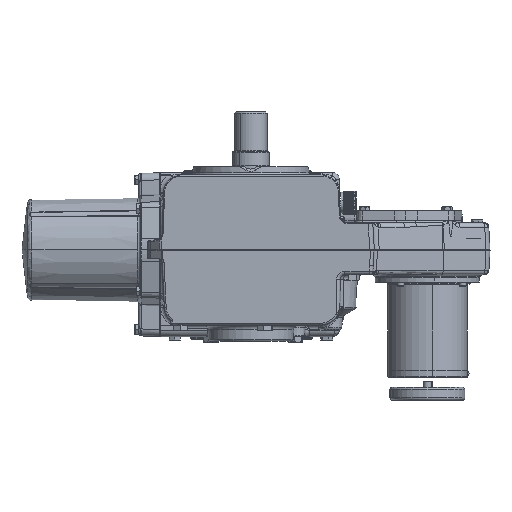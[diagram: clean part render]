
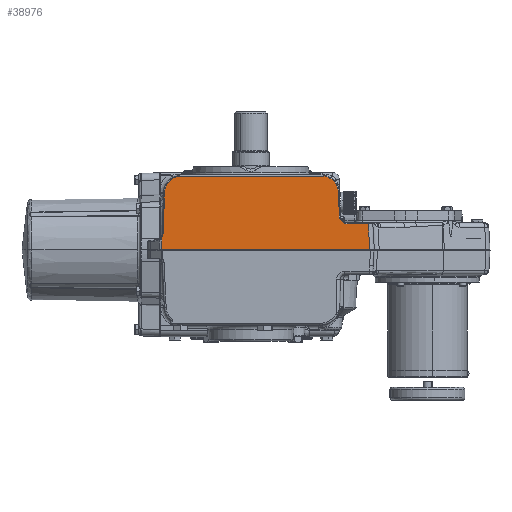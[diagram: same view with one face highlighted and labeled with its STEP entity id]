
A CAD part, front view. The second image highlights one B-rep face of the part: STEP entity #38976.
In plain terms, the highlighted planar face has unit normal (0, -1, 0).
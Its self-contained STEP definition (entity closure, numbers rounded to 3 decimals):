
#344 = AXIS2_PLACEMENT_3D ( 'NONE', #31014, #31015, #31017 ) ;
#379 = CIRCLE ( 'NONE', #344, 0.425 ) ;
#995 = AXIS2_PLACEMENT_3D ( 'NONE', #36457, #36459, #36461 ) ;
#1043 = CIRCLE ( 'NONE', #995, 0.95 ) ;
#1780 = VERTEX_POINT ( 'NONE', #62908 ) ;
#1784 = VERTEX_POINT ( 'NONE', #62969 ) ;
#3136 = VERTEX_POINT ( 'NONE', #68237 ) ;
#4160 = VERTEX_POINT ( 'NONE', #62239 ) ;
#4164 = VERTEX_POINT ( 'NONE', #62325 ) ;
#4328 = VERTEX_POINT ( 'NONE', #62761 ) ;
#4332 = VERTEX_POINT ( 'NONE', #62775 ) ;
#4354 = VERTEX_POINT ( 'NONE', #62823 ) ;
#4357 = VERTEX_POINT ( 'NONE', #62854 ) ;
#4416 = VERTEX_POINT ( 'NONE', #62990 ) ;
#4430 = VERTEX_POINT ( 'NONE', #63014 ) ;
#5248 = VERTEX_POINT ( 'NONE', #37351 ) ;
#5262 = VERTEX_POINT ( 'NONE', #37366 ) ;
#9337 = LINE ( 'NONE', #9338, #31910 ) ;
#9338 = CARTESIAN_POINT ( 'NONE',  ( -4.625, -5.329, 0.125 ) ) ;
#9346 = DIRECTION ( 'NONE',  ( 1., 0., 0. ) ) ;
#9389 = CARTESIAN_POINT ( 'NONE',  ( -3.66, -5.329, 3.125 ) ) ;
#9390 = DIRECTION ( 'NONE',  ( 0., -1., 0. ) ) ;
#9391 = DIRECTION ( 'NONE',  ( 0., 0., -1. ) ) ;
#9522 = CARTESIAN_POINT ( 'NONE',  ( 3.889, -5.329, 4.053 ) ) ;
#9523 = CARTESIAN_POINT ( 'NONE',  ( 3.912, -5.329, 4.061 ) ) ;
#9528 = CARTESIAN_POINT ( 'NONE',  ( 3.866, -5.329, 4.046 ) ) ;
#9529 = CARTESIAN_POINT ( 'NONE',  ( 3.831, -5.329, 4.038 ) ) ;
#9530 = CARTESIAN_POINT ( 'NONE',  ( 3.819, -5.329, 4.036 ) ) ;
#9531 = CARTESIAN_POINT ( 'NONE',  ( 3.795, -5.329, 4.032 ) ) ;
#9532 = CARTESIAN_POINT ( 'NONE',  ( 3.782, -5.329, 4.031 ) ) ;
#9533 = CARTESIAN_POINT ( 'NONE',  ( 3.77, -5.329, 4.031 ) ) ;
#18888 = EDGE_CURVE ( 'NONE', #4160, #1784, #46608, .T. ) ;
#18974 = EDGE_CURVE ( 'NONE', #1780, #5262, #22561, .T. ) ;
#19023 = EDGE_CURVE ( 'NONE', #3136, #4430, #9337, .T. ) ;
#19032 = EDGE_CURVE ( 'NONE', #1784, #1780, #31899, .T. ) ;
#19070 = EDGE_CURVE ( 'NONE', #4332, #4164, #46585, .T. ) ;
#22561 = LINE ( 'NONE', #22562, #31859 ) ;
#22562 = CARTESIAN_POINT ( 'NONE',  ( -4.686, -5.329, 0.985 ) ) ;
#22563 = DIRECTION ( 'NONE',  ( -0.035, 0., -0.999 ) ) ;
#23471 = CARTESIAN_POINT ( 'NONE',  ( -3.659, -5.329, 4.031 ) ) ;
#23488 = LINE ( 'NONE', #23471, #66933 ) ;
#23492 = DIRECTION ( 'NONE',  ( 1., 0., 0. ) ) ;
#27739 = CARTESIAN_POINT ( 'NONE',  ( -3.789, -5.329, 4.031 ) ) ;
#27744 = CARTESIAN_POINT ( 'NONE',  ( -3.77, -5.329, 4.031 ) ) ;
#27756 = CARTESIAN_POINT ( 'NONE',  ( -3.806, -5.329, 4.033 ) ) ;
#27757 = CARTESIAN_POINT ( 'NONE',  ( -3.842, -5.329, 4.04 ) ) ;
#27758 = CARTESIAN_POINT ( 'NONE',  ( -3.859, -5.329, 4.045 ) ) ;
#27759 = CARTESIAN_POINT ( 'NONE',  ( -3.877, -5.329, 4.05 ) ) ;
#28775 = CARTESIAN_POINT ( 'NONE',  ( -7.167, -5.329, 1.513 ) ) ;
#28778 = CARTESIAN_POINT ( 'NONE',  ( 5.149, -5.329, 1.938 ) ) ;
#28779 = DIRECTION ( 'NONE',  ( 0., 1., 0. ) ) ;
#28781 = DIRECTION ( 'NONE',  ( 0., 0., -1. ) ) ;
#28784 = LINE ( 'NONE', #28775, #54332 ) ;
#28791 = DIRECTION ( 'NONE',  ( -1., 0., 0. ) ) ;
#31014 = CARTESIAN_POINT ( 'NONE',  ( -5.111, -5.329, 1. ) ) ;
#31015 = DIRECTION ( 'NONE',  ( 0., 1., 0. ) ) ;
#31017 = DIRECTION ( 'NONE',  ( 0., 0., -1. ) ) ;
#31848 = AXIS2_PLACEMENT_3D ( 'NONE', #9389, #9390, #9391 ) ;
#31859 = VECTOR ( 'NONE', #22563, 39.37 ) ;
#31899 = CIRCLE ( 'NONE', #31848, 0.95 ) ;
#31910 = VECTOR ( 'NONE', #9346, 39.37 ) ;
#32913 = LINE ( 'NONE', #32914, #86264 ) ;
#32914 = CARTESIAN_POINT ( 'NONE',  ( -4.762, -5.329, 0.125 ) ) ;
#32915 = DIRECTION ( 'NONE',  ( 0., 0., -1. ) ) ;
#34391 =( BOUNDED_CURVE ( )  B_SPLINE_CURVE ( 3, ( #35230, #35248, #35250, #35253 ),
 .UNSPECIFIED., .F., .T. ) 
 B_SPLINE_CURVE_WITH_KNOTS ( ( 4, 4 ),
 ( 4.401, 4.494 ),
 .UNSPECIFIED. ) 
 CURVE ( )  GEOMETRIC_REPRESENTATION_ITEM ( )  RATIONAL_B_SPLINE_CURVE ( ( 1., 0.999, 0.999, 1. ) ) 
 REPRESENTATION_ITEM ( '' )  );
#35230 = CARTESIAN_POINT ( 'NONE',  ( 6.364, -5.329, 0.125 ) ) ;
#35248 = CARTESIAN_POINT ( 'NONE',  ( 6.334, -5.329, 0.582 ) ) ;
#35250 = CARTESIAN_POINT ( 'NONE',  ( 6.305, -5.329, 1.045 ) ) ;
#35253 = CARTESIAN_POINT ( 'NONE',  ( 6.276, -5.329, 1.513 ) ) ;
#35258 = CARTESIAN_POINT ( 'NONE',  ( 4.7, -5.329, 3.144 ) ) ;
#35277 = LINE ( 'NONE', #35258, #53958 ) ;
#35288 = DIRECTION ( 'NONE',  ( -0.02, 0., 1. ) ) ;
#36457 = CARTESIAN_POINT ( 'NONE',  ( 3.75, -5.329, 3.125 ) ) ;
#36459 = DIRECTION ( 'NONE',  ( 0., -1., 0. ) ) ;
#36461 = DIRECTION ( 'NONE',  ( 0., 0., -1. ) ) ;
#37351 = CARTESIAN_POINT ( 'NONE',  ( -4.762, -5.329, 0.758 ) ) ;
#37366 = CARTESIAN_POINT ( 'NONE',  ( -4.686, -5.329, 0.985 ) ) ;
#38976 = ADVANCED_FACE ( 'NONE', ( #40547 ), #40552, .T. ) ;
#40545 = CARTESIAN_POINT ( 'NONE',  ( -7.167, -5.329, -0.442 ) ) ;
#40547 = FACE_OUTER_BOUND ( 'NONE', #74608, .T. ) ;
#40552 = PLANE ( 'NONE',  #55313 ) ;
#40558 = DIRECTION ( 'NONE',  ( 0., -1., 0. ) ) ;
#40559 = DIRECTION ( 'NONE',  ( 0., 0., -1. ) ) ;
#42897 = ORIENTED_EDGE ( 'NONE', *, *, #58088, .T. ) ;
#42900 = ORIENTED_EDGE ( 'NONE', *, *, #58264, .T. ) ;
#42903 = ORIENTED_EDGE ( 'NONE', *, *, #83367, .F. ) ;
#43906 = ORIENTED_EDGE ( 'NONE', *, *, #19032, .T. ) ;
#43908 = ORIENTED_EDGE ( 'NONE', *, *, #18888, .T. ) ;
#43943 = ORIENTED_EDGE ( 'NONE', *, *, #58175, .T. ) ;
#43952 = ORIENTED_EDGE ( 'NONE', *, *, #58091, .T. ) ;
#43976 = ORIENTED_EDGE ( 'NONE', *, *, #19070, .T. ) ;
#44617 = ORIENTED_EDGE ( 'NONE', *, *, #18974, .T. ) ;
#44620 = ORIENTED_EDGE ( 'NONE', *, *, #57935, .T. ) ;
#44621 = ORIENTED_EDGE ( 'NONE', *, *, #57937, .T. ) ;
#44623 = ORIENTED_EDGE ( 'NONE', *, *, #82953, .T. ) ;
#44625 = ORIENTED_EDGE ( 'NONE', *, *, #19023, .T. ) ;
#46585 = B_SPLINE_CURVE_WITH_KNOTS ( 'NONE', 3,
 ( #9523, #9522, #9528, #9529, #9530, #9531, #9532, #9533 ),
 .UNSPECIFIED., .F., .F.,
 ( 4, 2, 2, 4 ),
 ( 0.002, 0.004, 0.005, 0.006 ),
 .UNSPECIFIED. ) ;
#46608 = B_SPLINE_CURVE_WITH_KNOTS ( 'NONE', 3,
 ( #27744, #27739, #27756, #27757, #27758, #27759 ),
 .UNSPECIFIED., .F., .F.,
 ( 4, 2, 4 ),
 ( 0., 0.001, 0.003 ),
 .UNSPECIFIED. ) ;
#53958 = VECTOR ( 'NONE', #35288, 39.37 ) ;
#54148 = CIRCLE ( 'NONE', #54152, 0.425 ) ;
#54152 = AXIS2_PLACEMENT_3D ( 'NONE', #28778, #28779, #28781 ) ;
#54332 = VECTOR ( 'NONE', #28791, 39.37 ) ;
#55313 = AXIS2_PLACEMENT_3D ( 'NONE', #40545, #40558, #40559 ) ;
#57935 = EDGE_CURVE ( 'NONE', #4354, #4328, #54148, .T. ) ;
#57937 = EDGE_CURVE ( 'NONE', #4416, #4354, #28784, .T. ) ;
#58088 = EDGE_CURVE ( 'NONE', #4430, #4416, #34391, .T. ) ;
#58091 = EDGE_CURVE ( 'NONE', #4328, #4357, #35277, .T. ) ;
#58175 = EDGE_CURVE ( 'NONE', #4357, #4332, #1043, .T. ) ;
#58264 = EDGE_CURVE ( 'NONE', #5262, #5248, #379, .T. ) ;
#62239 = CARTESIAN_POINT ( 'NONE',  ( -3.77, -5.329, 4.031 ) ) ;
#62325 = CARTESIAN_POINT ( 'NONE',  ( 3.77, -5.329, 4.031 ) ) ;
#62761 = CARTESIAN_POINT ( 'NONE',  ( 4.724, -5.329, 1.93 ) ) ;
#62775 = CARTESIAN_POINT ( 'NONE',  ( 3.912, -5.329, 4.061 ) ) ;
#62823 = CARTESIAN_POINT ( 'NONE',  ( 5.149, -5.329, 1.513 ) ) ;
#62854 = CARTESIAN_POINT ( 'NONE',  ( 4.7, -5.329, 3.144 ) ) ;
#62908 = CARTESIAN_POINT ( 'NONE',  ( -4.609, -5.329, 3.159 ) ) ;
#62969 = CARTESIAN_POINT ( 'NONE',  ( -3.877, -5.329, 4.05 ) ) ;
#62990 = CARTESIAN_POINT ( 'NONE',  ( 6.276, -5.329, 1.513 ) ) ;
#63014 = CARTESIAN_POINT ( 'NONE',  ( 6.364, -5.329, 0.125 ) ) ;
#66933 = VECTOR ( 'NONE', #23492, 39.37 ) ;
#68237 = CARTESIAN_POINT ( 'NONE',  ( -4.762, -5.329, 0.125 ) ) ;
#74608 = EDGE_LOOP ( 'NONE', ( #44617, #42900, #44623, #44625, #42897, #44621, #44620, #43952, #43943, #43976, #42903, #43908, #43906 ) ) ;
#82953 = EDGE_CURVE ( 'NONE', #5248, #3136, #32913, .T. ) ;
#83367 = EDGE_CURVE ( 'NONE', #4160, #4164, #23488, .T. ) ;
#86264 = VECTOR ( 'NONE', #32915, 39.37 ) ;
